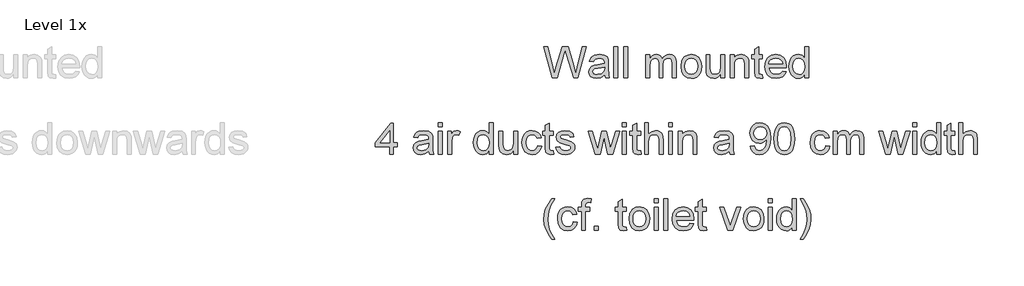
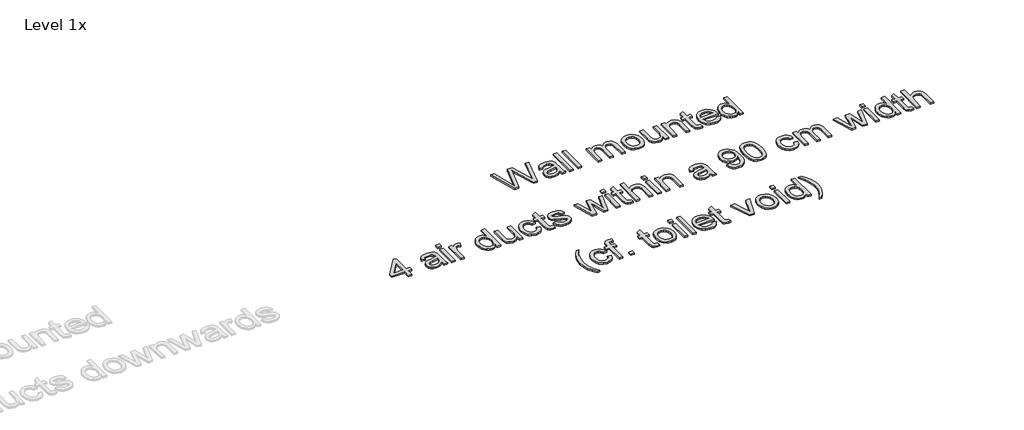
# One storey, part 4 of 7: 1 proxy.
"""IFC4 building model written with IfcOpenShell, lengths in millimetres."""

from ifc_helpers import new_model, si_unit, origin, origin_with_axes, place, context, project, spatial, polyline, outline, extrude, element, save

model = new_model("IFC4")

# Units and contexts
model_context = context("Model", 3, world=origin())
ifc_project = project(units=[si_unit("LENGTHUNIT", "METRE", prefix="MILLI")], contexts=[model_context])

# Site, building, storey
site = spatial("IfcSite", under=ifc_project)
building = spatial("IfcBuilding", under=site)
storey = spatial("IfcBuildingStorey", under=building, Name="Level 1x", Elevation=0.0)

# Proxy
placement = place(None, origin())
element("IfcBuildingElementProxy", 1, Name="190mm Arial", ObjectType="190mm Arial", at=placement, inside=storey, context=model_context, shape_type="SweptSolid", body=[
    extrude(outline(polyline([(-2830.0854469, 313.1270961), (-2882.1358442, 503.9940853), (-2857.5318963, 503.9940853), (-2827.3361422, 378.5512301), (-2818.016465, 339.8279713), (-2808.0444103, 374.077785), (-2770.2065209, 503.9940853), (-2734.7451491, 503.9940853), (-2707.2521013, 409.8187471), (-2686.7954098, 339.8279713), (-2677.7553229, 377.4328688), (-2647.2799785, 503.9940853), (-2622.6760306, 503.9940853), (-2674.7730262, 313.1270961), (-2700.2623434, 313.1270961), (-2746.0219585, 460.377996), (-2752.4059374, 480.9278842), (-2759.5820888, 456.1841412), (-2801.2876444, 313.1270961), (-2830.0854469, 313.1270961)])), origin_with_axes(), (0.0, 0.0, 1.0), 10.0),
    extrude(outline(polyline([(-2512.3310524, 331.0208763), (-2535.4671511, 314.8512363), (-2561.0263659, 310.1447993), (-2580.9646503, 312.9756513), (-2595.6722659, 321.4682072), (-2604.7414768, 334.3643105), (-2607.7645471, 350.4058049), (-2603.1979052, 369.2781512), (-2591.1988208, 382.9780767), (-2574.4932994, 390.8066056), (-2553.8502144, 394.3946813), (-2512.4708476, 402.5959973), (-2512.3310524, 407.9082133), (-2513.9736455, 418.5559445), (-2518.9014249, 425.5224032), (-2529.9219432, 430.6948241), (-2545.2761114, 432.4189644), (-2569.4140754, 427.8290233), (-2576.1824909, 421.4625188), (-2580.9238767, 411.5428874), (-2604.7822504, 414.5251841), (-2594.4607079, 437.8243771), (-2585.6652625, 445.6645556), (-2573.6778277, 451.4777043), (-2542.2006179, 456.277338), (-2513.2863193, 452.0368849), (-2496.953585, 441.3891537), (-2489.6376384, 425.1962145), (-2488.4726788, 404.3201376), (-2488.4726788, 374.6369656), (-2487.2611207, 333.1877012), (-2482.5080854, 313.1270961), (-2506.366459, 313.1270961), (-2512.3310524, 331.0208763)]), holes=[polyline([(-2512.3310524, 378.7376236), (-2550.8213193, 371.421677), (-2571.3479084, 367.554011), (-2580.6442864, 361.2632288), (-2583.9061734, 352.0833468), (-2582.1296099, 344.9887425), (-2576.7999195, 339.1755939), (-2568.0335982, 335.2962782), (-2555.9471418, 334.003173), (-2531.8091778, 339.7114753), (-2516.2453169, 353.5278968), (-2512.4708476, 371.9808576), (-2512.3310524, 378.7376236)])]), origin_with_axes(), (0.0, 0.0, 1.0), 10.0),
    extrude(outline(polyline([(-2455.667415, 313.1270961), (-2455.667415, 503.9940853), (-2431.8090413, 503.9940853), (-2431.8090413, 313.1270961), (-2455.667415, 313.1270961)])), origin_with_axes(), (0.0, 0.0, 1.0), 10.0),
    extrude(outline(polyline([(-2396.0214808, 313.1270961), (-2396.0214808, 503.9940853), (-2372.1631072, 503.9940853), (-2372.1631072, 313.1270961), (-2396.0214808, 313.1270961)])), origin_with_axes(), (0.0, 0.0, 1.0), 10.0),
    extrude(outline(polyline([(-2261.818129, 313.1270961), (-2261.818129, 453.2950413), (-2237.9597553, 453.2950413), (-2237.9597553, 430.2288402), (-2221.5571234, 449.1244858), (-2210.5948531, 454.489125), (-2198.211332, 456.277338), (-2184.9424416, 454.4541762), (-2174.30636, 448.9846906), (-2166.3613352, 440.2300188), (-2161.1656151, 428.5512983), (-2152.4691913, 440.6814407), (-2142.5495599, 449.3458281), (-2131.4067208, 454.5444605), (-2119.0406741, 456.277338), (-2101.1061203, 453.3940629), (-2087.8430547, 444.7442375), (-2079.6475635, 430.0948699), (-2076.9157331, 409.2129681), (-2076.9157331, 313.1270961), (-2100.7741068, 313.1270961), (-2100.7741068, 398.9613232), (-2102.9875301, 418.8821332), (-2111.0024525, 428.6910935), (-2124.6324805, 432.4189644), (-2137.5577078, 430.0307971), (-2148.0947678, 422.8662952), (-2155.1020001, 410.4361757), (-2157.4377442, 392.2511556), (-2157.4377442, 313.1270961), (-2181.2961179, 313.1270961), (-2181.2961179, 401.6174312), (-2182.6765951, 415.1076639), (-2186.8180266, 424.7302307), (-2194.1048493, 430.4967809), (-2204.9214996, 432.4189644), (-2222.5822879, 427.2931419), (-2229.5720458, 420.9790606), (-2234.3250812, 412.2884616), (-2237.9597553, 383.8168477), (-2237.9597553, 313.1270961), (-2261.818129, 313.1270961)])), origin_with_axes(), (0.0, 0.0, 1.0), 10.0),
    extrude(outline(polyline([(-2047.0927661, 383.2110687), (-2041.9319948, 417.0065482), (-2035.4810307, 430.1385558), (-2026.449681, 440.7600755), (-2007.3210436, 452.3980224), (-1984.4179368, 456.277338), (-1959.3538299, 451.5534266), (-1939.3339983, 437.3816925), (-1926.2107278, 414.8804968), (-1921.8363043, 385.1682009), (-1923.7701374, 361.0651857), (-1929.5716364, 342.7170712), (-1939.0718824, 328.9763721), (-1952.1019561, 318.6956032), (-1967.578445, 312.2825003), (-1984.4179368, 310.1447993), (-2009.7849332, 314.8512363), (-2029.7814656, 328.9705473), (-2042.764941, 351.9435516), (-2047.0927661, 383.2110687)]), holes=[polyline([(-2023.2343924, 383.2576671), (-2020.473438, 361.6651399), (-2012.1905749, 346.2818477), (-1999.7255066, 337.0728417), (-1984.4179368, 334.003173), (-1969.1802646, 337.0903161), (-1956.7384955, 346.3517453), (-1948.4556324, 361.9389054), (-1945.694678, 384.0032412), (-1948.4731068, 404.9666902), (-1956.8083931, 420.1402896), (-1969.2676365, 429.3492957), (-1984.4179368, 432.4189644), (-1999.7255066, 429.3609453), (-2012.1905749, 420.186888), (-2020.473438, 404.8385446), (-2023.2343924, 383.2576671)])]), origin_with_axes(), (0.0, 0.0, 1.0), 10.0),
    extrude(outline(polyline([(-1805.5267327, 313.1270961), (-1805.5267327, 337.2184616), (-1814.1590838, 325.3737344), (-1824.2126856, 316.9132149), (-1835.6875381, 311.8369032), (-1848.5836415, 310.1447993), (-1871.0207643, 314.8978347), (-1886.4914285, 326.8270216), (-1893.5976824, 344.3946131), (-1894.995634, 366.5754449), (-1894.995634, 453.2950413), (-1871.1372603, 453.2950413), (-1871.1372603, 377.8056559), (-1869.6927103, 353.4812984), (-1860.2565372, 339.1988931), (-1842.4792529, 334.003173), (-1822.5584428, 339.315389), (-1814.6192428, 345.5886967), (-1809.3943988, 353.7841879), (-1805.5267327, 380.3685671), (-1805.5267327, 453.2950413), (-1781.6683591, 453.2950413), (-1781.6683591, 313.1270961), (-1805.5267327, 313.1270961)])), origin_with_axes(), (0.0, 0.0, 1.0), 10.0),
    extrude(outline(polyline([(-1748.8630953, 313.1270961), (-1748.8630953, 453.2950413), (-1725.0047216, 453.2950413), (-1725.0047216, 433.7237192), (-1716.7160337, 443.5909274), (-1706.7614535, 450.6389333), (-1681.8546162, 456.277338), (-1659.3242965, 451.7339954), (-1643.9468291, 439.8048085), (-1636.7939768, 422.2605162), (-1635.5358204, 399.1943151), (-1635.5358204, 313.1270961), (-1659.3941941, 313.1270961), (-1659.3941941, 395.9790265), (-1662.1434988, 417.0880953), (-1671.8592623, 428.2484088), (-1688.238595, 432.4189644), (-1702.2122861, 430.0773955), (-1714.1239985, 423.0526888), (-1722.2845409, 409.4809088), (-1725.0047216, 387.4981202), (-1725.0047216, 313.1270961), (-1748.8630953, 313.1270961)])), origin_with_axes(), (0.0, 0.0, 1.0), 10.0),
    extrude(outline(polyline([(-1552.0315126, 333.0246069), (-1549.0492159, 312.4281203), (-1566.8963978, 310.1447993), (-1586.8871054, 314.1056622), (-1596.85916, 324.4971022), (-1599.7482599, 351.5707645), (-1599.7482599, 429.4366676), (-1617.6420402, 429.4366676), (-1617.6420402, 453.2950413), (-1599.7482599, 453.2950413), (-1599.7482599, 487.3584615), (-1575.8898863, 501.3845757), (-1575.8898863, 453.2950413), (-1552.0315126, 453.2950413), (-1552.0315126, 429.4366676), (-1575.8898863, 429.4366676), (-1575.8898863, 352.2697403), (-1574.6317298, 339.9677664), (-1570.5543711, 335.6108173), (-1562.4229527, 334.003173), (-1552.0315126, 333.0246069)])), origin_with_axes(), (0.0, 0.0, 1.0), 10.0),
    extrude(outline(polyline([(-1430.0369379, 354.87925), (-1406.6445481, 351.8969533), (-1415.0730312, 334.2711137), (-1428.5224904, 321.0954201), (-1446.6900361, 312.8824545), (-1469.272779, 310.1447993), (-1497.2667594, 314.8687107), (-1518.8068633, 329.0404449), (-1532.5417376, 351.7396837), (-1537.1200291, 382.046109), (-1532.4951392, 413.3718741), (-1518.6204698, 436.7992126), (-1497.3716058, 451.4078067), (-1470.6241322, 456.277338), (-1444.7096047, 451.4194563), (-1424.0024469, 436.845811), (-1410.4248422, 413.4650708), (-1405.8989739, 382.1859042), (-1406.0387691, 375.7553269), (-1513.2616554, 375.7553269), (-1509.1318734, 357.8964955), (-1499.5384307, 344.7674002), (-1485.6928853, 336.6942298), (-1468.8067951, 334.003173), (-1445.4144053, 338.9892003), (-1436.7238063, 345.4547264), (-1430.0369379, 354.87925)]), holes=[polyline([(-1513.2616554, 399.6137006), (-1429.7573476, 399.6137006), (-1432.9842858, 412.218564), (-1439.3100167, 421.2353517), (-1453.219635, 429.6230612), (-1470.7173289, 432.4189644), (-1486.7995969, 430.1880666), (-1500.0976113, 423.4953734), (-1509.3415662, 413.0631597), (-1513.2616554, 399.6137006)])]), origin_with_axes(), (0.0, 0.0, 1.0), 10.0),
    extrude(outline(polyline([(-1295.5539957, 313.1270961), (-1295.5539957, 335.6341165), (-1302.692286, 324.4825403), (-1311.339199, 316.5171286), (-1321.4947348, 311.7378817), (-1333.1588933, 310.1447993), (-1348.5829591, 312.4514195), (-1362.7022701, 319.3712798), (-1374.6547561, 330.4209221), (-1383.578347, 345.1168881), (-1389.1352045, 362.8650484), (-1390.9874904, 383.0712735), (-1389.2808245, 403.0270324), (-1384.1608268, 421.0489582), (-1375.6333222, 436.1118864), (-1363.7041354, 447.1906527), (-1349.2761101, 454.0056667), (-1333.2520901, 456.277338), (-1321.5791944, 454.6522193), (-1311.2576518, 449.7768632), (-1295.5539957, 432.8849482), (-1295.5539957, 503.9940853), (-1271.6956221, 503.9940853), (-1271.6956221, 313.1270961), (-1295.5539957, 313.1270961)]), holes=[polyline([(-1367.1291167, 383.1644703), (-1364.4380599, 361.5835928), (-1356.3648896, 346.2352493), (-1344.6337459, 337.0611921), (-1330.9687692, 334.003173), (-1317.3096172, 336.9213969), (-1305.8755383, 345.6760687), (-1298.1343814, 360.4302827), (-1295.5539957, 381.3471332), (-1298.1809798, 404.2152912), (-1306.0619318, 420.0703921), (-1317.7872507, 429.3318213), (-1331.9473353, 432.4189644), (-1345.7521071, 429.454142), (-1357.0638653, 420.5596751), (-1364.6128039, 405.2812293), (-1367.1291167, 383.1644703)])]), origin_with_axes(), (0.0, 0.0, 1.0), 10.0),
    extrude(outline(polyline([(-3820.0681587, -150.3772118), (-3820.0681587, -105.6427611), (-3906.5547632, -105.6427611), (-3906.5547632, -81.7843875), (-3814.1035653, 37.5074808), (-3796.209785, 37.5074808), (-3796.209785, -81.7843875), (-3772.3514114, -81.7843875), (-3772.3514114, -105.6427611), (-3796.209785, -105.6427611), (-3796.209785, -150.3772118), (-3820.0681587, -150.3772118)]), holes=[polyline([(-3820.0681587, -81.7843875), (-3820.0681587, -8.0657407), (-3877.19778, -81.7843875), (-3820.0681587, -81.7843875)])]), origin_with_axes(), (0.0, 0.0, 1.0), 10.0),
    extrude(outline(polyline([(-3581.4844221, -132.4834315), (-3604.6205208, -148.6530715), (-3630.1797355, -153.3595085), (-3650.11802, -150.5286565), (-3664.8256356, -142.0361007), (-3673.8948464, -129.1399973), (-3676.9179167, -113.0985029), (-3672.3512749, -94.2261566), (-3660.3521905, -80.5262311), (-3643.6466691, -72.6977022), (-3623.0035841, -69.1096265), (-3581.6242173, -60.9083105), (-3581.4844221, -55.5960945), (-3583.1270152, -44.9483633), (-3588.0547945, -37.9819046), (-3599.0753128, -32.8094837), (-3614.429481, -31.0853435), (-3638.567445, -35.6752845), (-3645.3358606, -42.041789), (-3650.0772464, -51.9614204), (-3673.93562, -48.9791237), (-3663.6140775, -25.6799307), (-3654.8186322, -17.8397522), (-3642.8311973, -12.0266036), (-3611.3539876, -7.2269698), (-3582.439689, -11.4674229), (-3566.1069547, -22.1151541), (-3558.7910081, -38.3080933), (-3557.6260484, -59.1841702), (-3557.6260484, -88.8673422), (-3556.4144904, -130.3166066), (-3551.661455, -150.3772118), (-3575.5198287, -150.3772118), (-3581.4844221, -132.4834315)]), holes=[polyline([(-3581.4844221, -84.7666842), (-3619.974689, -92.0826308), (-3640.501278, -95.9502968), (-3649.7976561, -102.241079), (-3653.0595431, -111.420961), (-3651.2829796, -118.5155653), (-3645.9532892, -124.328714), (-3637.1869678, -128.2080296), (-3625.1005114, -129.5011348), (-3600.9625475, -123.7928325), (-3585.3986865, -109.976411), (-3581.6242173, -91.5234502), (-3581.4844221, -84.7666842)])]), origin_with_axes(), (0.0, 0.0, 1.0), 10.0),
    extrude(outline(polyline([(-3524.8207847, 16.6314039), (-3524.8207847, 40.4897775), (-3500.962411, 40.4897775), (-3500.962411, 16.6314039), (-3524.8207847, 16.6314039)])), origin_with_axes(), (0.0, 0.0, 1.0), 10.0),
    extrude(outline(polyline([(-3524.8207847, -150.3772118), (-3524.8207847, -10.2092665), (-3500.962411, -10.2092665), (-3500.962411, -150.3772118), (-3524.8207847, -150.3772118)])), origin_with_axes(), (0.0, 0.0, 1.0), 10.0),
    extrude(outline(polyline([(-3465.1748505, -150.3772118), (-3465.1748505, -10.2092665), (-3444.2987736, -10.2092665), (-3444.2987736, -30.9455483), (-3429.4804868, -11.84021), (-3414.5690032, -7.2269698), (-3402.6864148, -9.067606), (-3390.6174328, -14.5895148), (-3398.5857568, -35.978174), (-3415.3611758, -31.0853435), (-3428.8514086, -35.7917804), (-3437.4488108, -48.8393285), (-3441.3164768, -76.7051634), (-3441.3164768, -150.3772118), (-3465.1748505, -150.3772118)])), origin_with_axes(), (0.0, 0.0, 1.0), 10.0),
    extrude(outline(polyline([(-3214.6619271, -150.3772118), (-3214.6619271, -127.8701913), (-3221.8002173, -139.0217676), (-3230.4471303, -146.9871792), (-3240.6026661, -151.7664261), (-3252.2668246, -153.3595085), (-3267.6908904, -151.0528884), (-3281.8102014, -144.133028), (-3293.7626874, -133.0833857), (-3302.6862783, -118.3874197), (-3308.2431359, -100.6392594), (-3310.0954217, -80.4330343), (-3308.3887558, -60.4772755), (-3303.2687582, -42.4553497), (-3294.7412535, -27.3924214), (-3282.8120667, -16.3136551), (-3268.3840414, -9.4986411), (-3252.3600214, -7.2269698), (-3240.6871257, -8.8520885), (-3230.3655832, -13.7274447), (-3214.6619271, -30.6193596), (-3214.6619271, 40.4897775), (-3190.8035534, 40.4897775), (-3190.8035534, -150.3772118), (-3214.6619271, -150.3772118)]), holes=[polyline([(-3286.237048, -80.3398375), (-3283.5459913, -101.9207151), (-3275.4728209, -117.2690585), (-3263.7416772, -126.4431157), (-3250.0767005, -129.5011348), (-3236.4175486, -126.5829109), (-3224.9834696, -117.8282391), (-3217.2423127, -103.0740251), (-3214.6619271, -82.1571746), (-3217.2889111, -59.2890166), (-3225.1698631, -43.4339158), (-3236.895182, -34.1724865), (-3251.0552666, -31.0853435), (-3264.8600384, -34.0501658), (-3276.1717967, -42.9446327), (-3283.7207352, -58.2230785), (-3286.237048, -80.3398375)])]), origin_with_axes(), (0.0, 0.0, 1.0), 10.0),
    extrude(outline(polyline([(-3065.5470917, -150.3772118), (-3065.5470917, -126.2858462), (-3074.1794427, -138.1305734), (-3084.2330445, -146.5910929), (-3095.7078971, -151.6674046), (-3108.6040004, -153.3595085), (-3131.0411233, -148.6064731), (-3146.5117875, -136.6772863), (-3153.6180413, -119.1096947), (-3155.0159929, -96.928863), (-3155.0159929, -10.2092665), (-3131.1576193, -10.2092665), (-3131.1576193, -85.6986519), (-3129.7130693, -110.0230094), (-3120.2768961, -124.3054148), (-3102.4996118, -129.5011348), (-3082.5788018, -124.1889188), (-3074.6396018, -117.9156111), (-3069.4147577, -109.7201199), (-3065.5470917, -83.1357407), (-3065.5470917, -10.2092665), (-3041.688718, -10.2092665), (-3041.688718, -150.3772118), (-3065.5470917, -150.3772118)])), origin_with_axes(), (0.0, 0.0, 1.0), 10.0),
    extrude(outline(polyline([(-2919.414553, -99.6781677), (-2895.5561794, -102.6604644), (-2902.208099, -123.8802045), (-2914.708116, -139.9158741), (-2931.8796213, -149.9985999), (-2952.5460055, -153.3595085), (-2977.9246515, -148.6705459), (-2997.7697392, -134.6036581), (-3010.5784705, -111.7762737), (-3014.8480477, -80.8058214), (-3013.0248858, -59.5744317), (-3007.5554002, -41.173894), (-2998.352219, -26.3148337), (-2985.3279701, -15.7078761), (-2969.7466348, -9.3471964), (-2952.8721942, -7.2269698), (-2932.7125674, -10.1393689), (-2916.5953507, -18.8765663), (-2905.0331261, -32.9725781), (-2898.5384761, -51.9614204), (-2922.3968497, -54.9437171), (-2926.7246748, -44.5348026), (-2933.4639664, -37.0732361), (-2942.2419374, -32.5823166), (-2952.6858007, -31.0853435), (-2968.1040416, -34.0326914), (-2980.3419428, -42.8747351), (-2988.3277412, -58.0891082), (-2990.989674, -80.153444), (-2988.3859892, -102.5148445), (-2980.5749347, -117.7816407), (-2968.5583759, -126.5712613), (-2953.3381781, -129.5011348), (-2940.983781, -127.6721482), (-2930.8544568, -122.1851882), (-2923.486087, -112.9004598), (-2919.414553, -99.6781677)])), origin_with_axes(), (0.0, 0.0, 1.0), 10.0),
    extrude(outline(polyline([(-2823.9810584, -130.4797009), (-2820.9987617, -151.0761876), (-2838.8459435, -153.3595085), (-2858.8366511, -149.3986457), (-2868.8087058, -139.0072056), (-2871.6978057, -111.9335433), (-2871.6978057, -34.0676402), (-2889.5915859, -34.0676402), (-2889.5915859, -10.2092665), (-2871.6978057, -10.2092665), (-2871.6978057, 23.8541537), (-2847.839432, 37.8802679), (-2847.839432, -10.2092665), (-2823.9810584, -10.2092665), (-2823.9810584, -34.0676402), (-2847.839432, -34.0676402), (-2847.839432, -111.2345675), (-2846.5812756, -123.5365414), (-2842.5039168, -127.8934905), (-2834.3724985, -129.5011348), (-2823.9810584, -130.4797009)])), origin_with_axes(), (0.0, 0.0, 1.0), 10.0),
    extrude(outline(polyline([(-2809.0695748, -108.6250579), (-2785.2112012, -105.6427611), (-2781.4483815, -115.8478077), (-2774.1673837, -123.3501478), (-2763.3216093, -127.9633881), (-2748.8644601, -129.5011348), (-2734.5820547, -128.0915336), (-2724.5401025, -123.8627301), (-2718.5988083, -117.7350423), (-2716.6183769, -110.6287885), (-2718.6104579, -104.5476991), (-2724.5867009, -99.9111597), (-2749.1440504, -93.1077953), (-2785.071406, -81.4348996), (-2800.7517629, -67.8048717), (-2806.0872781, -48.5597382), (-2801.8002266, -30.7824539), (-2790.1040317, -17.1990244), (-2774.9362571, -10.1393689), (-2754.409668, -7.2269698), (-2725.3788735, -11.9101076), (-2714.5214495, -17.4203667), (-2706.9259126, -24.5848686), (-2698.7245967, -45.996827), (-2722.5829703, -48.9791237), (-2725.594391, -41.4709587), (-2731.5531596, -35.8150796), (-2752.5457326, -31.0853435), (-2775.3789417, -35.6053869), (-2780.5164138, -40.4982174), (-2782.2289045, -46.1366222), (-2779.3864029, -53.0797817), (-2770.4861112, -58.3453993), (-2749.9362229, -63.4246234), (-2714.9175358, -74.6548344), (-2698.6546991, -87.3761938), (-2694.2336772, -96.7308198), (-2692.7600032, -108.1124756), (-2694.4899683, -119.8785681), (-2699.6798636, -130.9456848), (-2708.1316458, -140.4459307), (-2719.647272, -147.511411), (-2733.5568902, -151.8974841), (-2749.1906488, -153.3595085), (-2773.2470656, -150.5403061), (-2790.8030075, -142.082699), (-2802.5225016, -128.079884), (-2809.0695748, -108.6250579)])), origin_with_axes(), (0.0, 0.0, 1.0), 10.0),
    extrude(outline(polyline([(-2568.1093205, -150.3772118), (-2610.7468438, -10.2092665), (-2585.9565024, -10.2092665), (-2561.77194, -91.989434), (-2554.5491902, -121.2066221), (-2548.6311952, -93.0611969), (-2529.3860617, -10.2092665), (-2500.9610462, -10.2092665), (-2481.8091096, -92.828205), (-2476.5434919, -118.3175222), (-2468.9945534, -91.4302534), (-2444.7633927, -10.2092665), (-2419.8798545, -10.2092665), (-2462.8435664, -150.3772118), (-2491.6879674, -150.3772118), (-2510.0011331, -68.1776588), (-2515.3133491, -42.5485464), (-2538.9387309, -150.3772118), (-2568.1093205, -150.3772118)])), origin_with_axes(), (0.0, 0.0, 1.0), 10.0),
    extrude(outline(polyline([(-2403.4772226, 16.6314039), (-2403.4772226, 40.4897775), (-2379.6188489, 40.4897775), (-2379.6188489, 16.6314039), (-2403.4772226, 16.6314039)])), origin_with_axes(), (0.0, 0.0, 1.0), 10.0),
    extrude(outline(polyline([(-2403.4772226, -150.3772118), (-2403.4772226, -10.2092665), (-2379.6188489, -10.2092665), (-2379.6188489, -150.3772118), (-2403.4772226, -150.3772118)])), origin_with_axes(), (0.0, 0.0, 1.0), 10.0),
    extrude(outline(polyline([(-2293.1322444, -130.4797009), (-2290.1499477, -151.0761876), (-2307.9971296, -153.3595085), (-2327.9878372, -149.3986457), (-2337.9598918, -139.0072056), (-2340.8489918, -111.9335433), (-2340.8489918, -34.0676402), (-2358.742772, -34.0676402), (-2358.742772, -10.2092665), (-2340.8489918, -10.2092665), (-2340.8489918, 23.8541537), (-2316.9906181, 37.8802679), (-2316.9906181, -10.2092665), (-2293.1322444, -10.2092665), (-2293.1322444, -34.0676402), (-2316.9906181, -34.0676402), (-2316.9906181, -111.2345675), (-2315.7324617, -123.5365414), (-2311.6551029, -127.8934905), (-2303.5236845, -129.5011348), (-2293.1322444, -130.4797009)])), origin_with_axes(), (0.0, 0.0, 1.0), 10.0),
    extrude(outline(polyline([(-2269.2738708, -150.3772118), (-2269.2738708, 40.4897775), (-2245.4154971, 40.4897775), (-2245.4154971, -29.6873919), (-2226.8110915, -12.8420753), (-2203.8963351, -7.2269698), (-2189.4857842, -8.7588917), (-2177.1022632, -13.3546576), (-2167.3515509, -20.6531298), (-2160.8394264, -30.2931709), (-2155.9465959, -61.6538847), (-2155.9465959, -150.3772118), (-2179.8049695, -150.3772118), (-2179.8049695, -64.1235992), (-2181.7038538, -49.1888164), (-2187.4005065, -38.9604707), (-2196.5803885, -33.0541253), (-2208.9289608, -31.0853435), (-2228.4769838, -36.3975595), (-2236.3171622, -42.6533928), (-2241.5245319, -50.7964608), (-2245.4154971, -75.9129908), (-2245.4154971, -150.3772118), (-2269.2738708, -150.3772118)])), origin_with_axes(), (0.0, 0.0, 1.0), 10.0),
    extrude(outline(polyline([(-2123.1413321, -150.3772118), (-2123.1413321, -10.2092665), (-2099.2829584, -10.2092665), (-2099.2829584, -150.3772118), (-2123.1413321, -150.3772118)])), origin_with_axes(), (0.0, 0.0, 1.0), 10.0),
    extrude(outline(polyline([(-2123.1413321, 16.6314039), (-2123.1413321, 40.4897775), (-2099.2829584, 40.4897775), (-2099.2829584, 16.6314039), (-2123.1413321, 16.6314039)])), origin_with_axes(), (0.0, 0.0, 1.0), 10.0),
    extrude(outline(polyline([(-2063.4953979, -150.3772118), (-2063.4953979, -10.2092665), (-2039.6370243, -10.2092665), (-2039.6370243, -29.7805886), (-2031.3483364, -19.9133804), (-2021.3937561, -12.8653745), (-1996.4869188, -7.2269698), (-1973.9565991, -11.7703124), (-1958.5791317, -23.6994993), (-1951.4262795, -41.2437916), (-1950.1681231, -64.3099927), (-1950.1681231, -150.3772118), (-1974.0264967, -150.3772118), (-1974.0264967, -67.5252814), (-1976.7758015, -46.4162125), (-1986.491565, -35.255899), (-2002.8708977, -31.0853435), (-2016.8445887, -33.4269124), (-2028.7563011, -40.4516191), (-2036.9168435, -54.023399), (-2039.6370243, -76.0061876), (-2039.6370243, -150.3772118), (-2063.4953979, -150.3772118)])), origin_with_axes(), (0.0, 0.0, 1.0), 10.0),
    extrude(outline(polyline([(-1753.3365404, -132.4834315), (-1776.472639, -148.6530715), (-1802.0318538, -153.3595085), (-1821.9701382, -150.5286565), (-1836.6777538, -142.0361007), (-1845.7469647, -129.1399973), (-1848.770035, -113.0985029), (-1844.2033932, -94.2261566), (-1832.2043088, -80.5262311), (-1815.4987874, -72.6977022), (-1794.8557023, -69.1096265), (-1753.4763355, -60.9083105), (-1753.3365404, -55.5960945), (-1754.9791335, -44.9483633), (-1759.9069128, -37.9819046), (-1770.9274311, -32.8094837), (-1786.2815993, -31.0853435), (-1810.4195633, -35.6752845), (-1817.1879789, -42.041789), (-1821.9293646, -51.9614204), (-1845.7877383, -48.9791237), (-1835.4661958, -25.6799307), (-1826.6707504, -17.8397522), (-1814.6833156, -12.0266036), (-1783.2061058, -7.2269698), (-1754.2918073, -11.4674229), (-1737.959073, -22.1151541), (-1730.6431264, -38.3080933), (-1729.4781667, -59.1841702), (-1729.4781667, -88.8673422), (-1728.2666087, -130.3166066), (-1723.5135733, -150.3772118), (-1747.3719469, -150.3772118), (-1753.3365404, -132.4834315)]), holes=[polyline([(-1753.3365404, -84.7666842), (-1791.8268072, -92.0826308), (-1812.3533963, -95.9502968), (-1821.6497743, -102.241079), (-1824.9116613, -111.420961), (-1823.1350979, -118.5155653), (-1817.8054075, -124.328714), (-1809.0390861, -128.2080296), (-1796.9526297, -129.5011348), (-1772.8146657, -123.7928325), (-1757.2508048, -109.976411), (-1753.4763355, -91.5234502), (-1753.3365404, -84.7666842)])]), origin_with_axes(), (0.0, 0.0, 1.0), 10.0),
    extrude(outline(polyline([(-1625.0977819, -102.6604644), (-1601.2394083, -99.6781677), (-1597.1620495, -113.2208237), (-1590.5217795, -122.4414793), (-1581.4816926, -127.7362209), (-1570.2048832, -129.5011348), (-1550.8898521, -124.9577922), (-1537.7957057, -112.8189126), (-1529.990476, -92.0826308), (-1526.5421954, -64.4031895), (-1526.6819906, -59.7433509), (-1534.9473793, -69.8319015), (-1545.7640297, -77.8235247), (-1558.3514187, -83.0308943), (-1571.9290234, -84.7666842), (-1593.6846449, -80.5262311), (-1611.7939427, -67.8048717), (-1624.0085447, -48.1520023), (-1628.0800786, -23.1170194), (-1623.8105015, 2.7450848), (-1611.0017702, 23.0153828), (-1591.7624615, 36.1211788), (-1568.2011526, 40.4897775), (-1550.4063939, 37.9967639), (-1534.2076299, 30.5177229), (-1520.6591492, 18.4254417), (-1510.8152401, 2.0927074), (-1504.8215227, -20.4842106), (-1502.8236169, -51.309043), (-1504.8156979, -83.991986), (-1510.7919409, -109.2541361), (-1520.6999228, -128.2371536), (-1534.4872202, -142.082699), (-1551.5597039, -150.5403061), (-1571.3232444, -153.3595085), (-1591.7216879, -150.0335487), (-1607.9961743, -140.0556692), (-1619.37783, -124.0549484), (-1625.0977819, -102.6604644)]), holes=[polyline([(-1526.6819906, -22.5578388), (-1529.2565514, -6.3881988), (-1536.9802339, 6.0535702), (-1548.9676687, 13.9869455), (-1564.3334865, 16.6314039), (-1580.2701345, 13.7830775), (-1593.0380923, 5.2380985), (-1601.4258018, -7.8385736), (-1604.221705, -24.2819791), (-1601.5772466, -39.0245435), (-1593.6438713, -50.7265632), (-1581.1904527, -58.3628737), (-1564.9858639, -60.9083105), (-1549.7423669, -58.3628737), (-1537.469517, -50.7265632), (-1529.3788722, -38.5935084), (-1526.6819906, -22.5578388)])]), origin_with_axes(), (0.0, 0.0, 1.0), 10.0),
    extrude(outline(polyline([(-1481.94754, -56.4814639), (-1480.1942757, -25.930397), (-1474.9344829, -1.5652659), (-1466.2205847, 16.9867166), (-1454.1050043, 30.0983374), (-1438.5003698, 37.8919175), (-1419.3193091, 40.4897775), (-1404.6175183, 38.9520308), (-1391.4534743, 34.3387906), (-1380.4446055, 26.8306256), (-1372.2083408, 16.6081047), (-1361.0247282, -11.6305173), (-1356.6910783, -56.4814639), (-1358.4268681, -86.8577868), (-1363.6342378, -111.1646699), (-1372.2957128, -129.7341267), (-1384.3938188, -142.8981708), (-1400.0334021, -150.744174), (-1419.3193091, -153.3595085), (-1444.1096505, -148.8161658), (-1462.9353985, -135.1861379), (-1471.2532104, -120.8134482), (-1477.1945046, -102.905106), (-1481.94754, -56.4814639)]), holes=[polyline([(-1458.0891663, -56.4348655), (-1455.2932631, -93.9640406), (-1446.9055537, -115.6847133), (-1434.4171862, -126.0470294), (-1419.3193091, -129.5011348), (-1404.221432, -126.0353798), (-1391.7330646, -115.638115), (-1383.3453551, -93.9057927), (-1380.5494519, -56.4348655), (-1383.2521583, -19.750286), (-1391.3602775, 2.1393058), (-1403.8253457, 13.0083793), (-1419.5988994, 16.6314039), (-1434.5336822, 13.4394144), (-1446.5327666, 3.8634461), (-1455.2000664, -19.3891486), (-1458.0891663, -56.4348655)])]), origin_with_axes(), (0.0, 0.0, 1.0), 10.0),
    extrude(outline(polyline([(-1165.824089, -99.6781677), (-1141.9657153, -102.6604644), (-1148.6176349, -123.8802045), (-1161.117652, -139.9158741), (-1178.2891572, -149.9985999), (-1198.9555415, -153.3595085), (-1224.3341875, -148.6705459), (-1244.1792751, -134.6036581), (-1256.9880065, -111.7762737), (-1261.2575836, -80.8058214), (-1259.4344218, -59.5744317), (-1253.9649362, -41.173894), (-1244.7617549, -26.3148337), (-1231.737506, -15.7078761), (-1216.1561707, -9.3471964), (-1199.2817302, -7.2269698), (-1179.1221034, -10.1393689), (-1163.0048866, -18.8765663), (-1151.4426621, -32.9725781), (-1144.948012, -51.9614204), (-1168.8063857, -54.9437171), (-1173.1342108, -44.5348026), (-1179.8735024, -37.0732361), (-1188.6514733, -32.5823166), (-1199.0953366, -31.0853435), (-1214.5135776, -34.0326914), (-1226.7514787, -42.8747351), (-1234.7372771, -58.0891082), (-1237.39921, -80.153444), (-1234.7955251, -102.5148445), (-1226.9844707, -117.7816407), (-1214.9679119, -126.5712613), (-1199.747714, -129.5011348), (-1187.3933169, -127.6721482), (-1177.2639927, -122.1851882), (-1169.895623, -112.9004598), (-1165.824089, -99.6781677)])), origin_with_axes(), (0.0, 0.0, 1.0), 10.0),
    extrude(outline(polyline([(-1121.0896384, -150.3772118), (-1121.0896384, -10.2092665), (-1097.2312647, -10.2092665), (-1097.2312647, -33.2754676), (-1080.8286328, -14.3798221), (-1069.8663625, -9.0151829), (-1057.4828414, -7.2269698), (-1044.213951, -9.0501317), (-1033.5778693, -14.5196172), (-1025.6328445, -23.274289), (-1020.4371245, -34.9530095), (-1011.7407007, -22.8228671), (-1001.8210692, -14.1584797), (-990.6782302, -8.9598473), (-978.3121835, -7.2269698), (-960.3776296, -10.1102449), (-947.114564, -18.7600703), (-938.9190729, -33.409438), (-936.1872425, -54.2913397), (-936.1872425, -150.3772118), (-960.0456161, -150.3772118), (-960.0456161, -64.5429846), (-962.2590395, -44.6221746), (-970.2739619, -34.8132143), (-983.9039898, -31.0853435), (-996.8292171, -33.4735107), (-1007.3662772, -40.6380126), (-1014.3735095, -53.0681321), (-1016.7092536, -71.2531522), (-1016.7092536, -150.3772118), (-1040.5676273, -150.3772118), (-1040.5676273, -61.8868766), (-1041.9481044, -48.3966439), (-1046.089536, -38.7740772), (-1053.3763586, -33.0075269), (-1064.193009, -31.0853435), (-1081.8537973, -36.2111659), (-1088.8435552, -42.5252472), (-1093.5965906, -51.2158462), (-1097.2312647, -79.6874601), (-1097.2312647, -150.3772118), (-1121.0896384, -150.3772118)])), origin_with_axes(), (0.0, 0.0, 1.0), 10.0),
    extrude(outline(polyline([(-802.5896697, -150.3772118), (-845.2271929, -10.2092665), (-820.4368515, -10.2092665), (-796.2522892, -91.989434), (-789.0295393, -121.2066221), (-783.1115443, -93.0611969), (-763.8664109, -10.2092665), (-735.4413954, -10.2092665), (-716.2894587, -92.828205), (-711.0238411, -118.3175222), (-703.4749025, -91.4302534), (-679.2437418, -10.2092665), (-654.3602036, -10.2092665), (-697.3239156, -150.3772118), (-726.1683165, -150.3772118), (-744.4814823, -68.1776588), (-749.7936983, -42.5485464), (-773.41908, -150.3772118), (-802.5896697, -150.3772118)])), origin_with_axes(), (0.0, 0.0, 1.0), 10.0),
    extrude(outline(polyline([(-637.9575717, 16.6314039), (-637.9575717, 40.4897775), (-614.0991981, 40.4897775), (-614.0991981, 16.6314039), (-637.9575717, 16.6314039)])), origin_with_axes(), (0.0, 0.0, 1.0), 10.0),
    extrude(outline(polyline([(-637.9575717, -150.3772118), (-637.9575717, -10.2092665), (-614.0991981, -10.2092665), (-614.0991981, -150.3772118), (-637.9575717, -150.3772118)])), origin_with_axes(), (0.0, 0.0, 1.0), 10.0),
    extrude(outline(polyline([(-491.8250331, -150.3772118), (-491.8250331, -127.8701913), (-498.9633233, -139.0217676), (-507.6102363, -146.9871792), (-517.7657721, -151.7664261), (-529.4299306, -153.3595085), (-544.8539964, -151.0528884), (-558.9733074, -144.133028), (-570.9257934, -133.0833857), (-579.8493843, -118.3874197), (-585.4062419, -100.6392594), (-587.2585277, -80.4330343), (-585.5518618, -60.4772755), (-580.4318641, -42.4553497), (-571.9043595, -27.3924214), (-559.9751727, -16.3136551), (-545.5471474, -9.4986411), (-529.5231274, -7.2269698), (-517.8502317, -8.8520885), (-507.5286892, -13.7274447), (-491.8250331, -30.6193596), (-491.8250331, 40.4897775), (-467.9666594, 40.4897775), (-467.9666594, -150.3772118), (-491.8250331, -150.3772118)]), holes=[polyline([(-563.400154, -80.3398375), (-560.7090972, -101.9207151), (-552.6359269, -117.2690585), (-540.9047832, -126.4431157), (-527.2398065, -129.5011348), (-513.5806545, -126.5829109), (-502.1465756, -117.8282391), (-494.4054187, -103.0740251), (-491.8250331, -82.1571746), (-494.4520171, -59.2890166), (-502.3329691, -43.4339158), (-514.058288, -34.1724865), (-528.2183726, -31.0853435), (-542.0231444, -34.0501658), (-553.3349027, -42.9446327), (-560.8838412, -58.2230785), (-563.400154, -80.3398375)])]), origin_with_axes(), (0.0, 0.0, 1.0), 10.0),
    extrude(outline(polyline([(-381.4800549, -130.4797009), (-378.4977582, -151.0761876), (-396.34494, -153.3595085), (-416.3356476, -149.3986457), (-426.3077023, -139.0072056), (-429.1968022, -111.9335433), (-429.1968022, -34.0676402), (-447.0905824, -34.0676402), (-447.0905824, -10.2092665), (-429.1968022, -10.2092665), (-429.1968022, 23.8541537), (-405.3384285, 37.8802679), (-405.3384285, -10.2092665), (-381.4800549, -10.2092665), (-381.4800549, -34.0676402), (-405.3384285, -34.0676402), (-405.3384285, -111.2345675), (-404.0802721, -123.5365414), (-400.0029133, -127.8934905), (-391.871495, -129.5011348), (-381.4800549, -130.4797009)])), origin_with_axes(), (0.0, 0.0, 1.0), 10.0),
    extrude(outline(polyline([(-357.6216812, -150.3772118), (-357.6216812, 40.4897775), (-333.7633076, 40.4897775), (-333.7633076, -29.6873919), (-315.1589019, -12.8420753), (-292.2441456, -7.2269698), (-277.8335947, -8.7588917), (-265.4500736, -13.3546576), (-255.6993613, -20.6531298), (-249.1872369, -30.2931709), (-244.2944063, -61.6538847), (-244.2944063, -150.3772118), (-268.15278, -150.3772118), (-268.15278, -64.1235992), (-270.0516642, -49.1888164), (-275.7483169, -38.9604707), (-284.928199, -33.0541253), (-297.2767713, -31.0853435), (-316.8247942, -36.3975595), (-324.6649727, -42.6533928), (-329.8723423, -50.7964608), (-333.7633076, -75.9129908), (-333.7633076, -150.3772118), (-357.6216812, -150.3772118)])), origin_with_axes(), (0.0, 0.0, 1.0), 10.0),
    extrude(outline(polyline([(-2834.4190969, -667.5628603), (-2852.9070065, -641.6192089), (-2868.2961235, -611.5981987), (-2878.675914, -578.9560292), (-2882.1358442, -545.1489001), (-2879.5496337, -515.500677), (-2871.7910025, -487.1339095), (-2856.3902359, -455.0043223), (-2834.4190969, -423.0145303), (-2816.5253166, -423.0145303), (-2838.8459435, -460.8058214), (-2852.2662787, -497.4321528), (-2858.2774705, -545.2886953), (-2855.6679609, -575.8747109), (-2847.839432, -606.449077), (-2834.7918839, -637.0117934), (-2816.5253166, -667.5628603), (-2834.4190969, -667.5628603)])), origin_with_axes(), (0.0, 0.0, 1.0), 10.0),
    extrude(outline(polyline([(-2703.1980417, -563.1824755), (-2679.3396681, -566.1647723), (-2685.9915877, -587.3845123), (-2698.4916047, -603.4201819), (-2715.66311, -613.5029077), (-2736.3294942, -616.8638163), (-2761.7081402, -612.1748537), (-2781.5532279, -598.1079659), (-2794.3619592, -575.2805815), (-2798.6315364, -544.3101292), (-2796.8083745, -523.0787395), (-2791.3388889, -504.6782018), (-2782.1357077, -489.8191415), (-2769.1114588, -479.2121839), (-2753.5301235, -472.8515042), (-2736.6556829, -470.7312776), (-2716.4960561, -473.6436767), (-2700.3788394, -482.3808741), (-2688.8166148, -496.4768859), (-2682.3219648, -515.4657282), (-2706.1803384, -518.4480249), (-2710.5081635, -508.0391104), (-2717.2474551, -500.5775439), (-2726.0254261, -496.0866244), (-2736.4692894, -494.5896513), (-2751.8875303, -497.5369992), (-2764.1254315, -506.3790429), (-2772.1112299, -521.593416), (-2774.7731627, -543.6577518), (-2772.1694779, -566.0191523), (-2764.3584234, -581.2859485), (-2752.3418646, -590.0755691), (-2737.1216668, -593.0054426), (-2724.7672697, -591.176456), (-2714.6379455, -585.689496), (-2707.2695757, -576.4047676), (-2703.1980417, -563.1824755)])), origin_with_axes(), (0.0, 0.0, 1.0), 10.0),
    extrude(outline(polyline([(-2652.4989977, -613.8815196), (-2652.4989977, -497.571948), (-2673.3750746, -497.571948), (-2673.3750746, -473.7135743), (-2652.4989977, -473.7135743), (-2652.4989977, -459.5942633), (-2649.9826848, -439.6967525), (-2637.7739077, -425.4842447), (-2627.4057668, -421.3952364), (-2613.7291405, -420.0322336), (-2591.9676942, -422.6417432), (-2595.4625732, -445.0089685), (-2609.209097, -443.8906072), (-2624.2370765, -447.8514701), (-2628.640624, -462.6231584), (-2628.640624, -473.7135743), (-2601.7999537, -473.7135743), (-2601.7999537, -497.571948), (-2628.640624, -497.571948), (-2628.640624, -613.8815196), (-2652.4989977, -613.8815196)])), origin_with_axes(), (0.0, 0.0, 1.0), 10.0),
    extrude(outline(polyline([(-2574.9592833, -613.8815196), (-2574.9592833, -590.0231459), (-2551.1009096, -590.0231459), (-2551.1009096, -613.8815196), (-2574.9592833, -613.8815196)])), origin_with_axes(), (0.0, 0.0, 1.0), 10.0),
    extrude(outline(polyline([(-2381.1099973, -593.9840087), (-2378.1277006, -614.5804954), (-2395.9748825, -616.8638163), (-2415.9655901, -612.9029535), (-2425.9376447, -602.5115134), (-2428.8267446, -575.4378511), (-2428.8267446, -497.571948), (-2446.7205249, -497.571948), (-2446.7205249, -473.7135743), (-2428.8267446, -473.7135743), (-2428.8267446, -439.6501541), (-2404.968371, -425.6240399), (-2404.968371, -473.7135743), (-2381.1099973, -473.7135743), (-2381.1099973, -497.571948), (-2404.968371, -497.571948), (-2404.968371, -574.7388753), (-2403.7102145, -587.0408492), (-2399.6328558, -591.3977983), (-2391.5014374, -593.0054426), (-2381.1099973, -593.9840087)])), origin_with_axes(), (0.0, 0.0, 1.0), 10.0),
    extrude(outline(polyline([(-2363.2162171, -543.7975469), (-2358.0554458, -510.0020675), (-2351.6044817, -496.8700598), (-2342.573132, -486.2485402), (-2323.4444946, -474.6105932), (-2300.5413878, -470.7312776), (-2275.4772809, -475.455189), (-2255.4574493, -489.6269232), (-2242.3341788, -512.1281188), (-2237.9597553, -541.8404147), (-2239.8935884, -565.9434299), (-2245.6950874, -584.2915444), (-2255.1953334, -598.0322435), (-2268.2254071, -608.3130124), (-2283.7018961, -614.7261153), (-2300.5413878, -616.8638163), (-2325.9083842, -612.1573793), (-2345.9049166, -598.0380683), (-2358.888392, -575.065064), (-2363.2162171, -543.7975469)]), holes=[polyline([(-2339.3578434, -543.7509486), (-2336.596889, -565.3434757), (-2328.3140259, -580.7267679), (-2315.8489576, -589.9357739), (-2300.5413878, -593.0054426), (-2285.3037156, -589.9182995), (-2272.8619465, -580.6568703), (-2264.5790834, -565.0697102), (-2261.818129, -543.0053744), (-2264.5965578, -522.0419255), (-2272.9318441, -506.868326), (-2285.3910875, -497.65932), (-2300.5413878, -494.5896513), (-2315.8489576, -497.6476704), (-2328.3140259, -506.8217276), (-2336.596889, -522.170071), (-2339.3578434, -543.7509486)])]), origin_with_axes(), (0.0, 0.0, 1.0), 10.0),
    extrude(outline(polyline([(-2211.119085, -446.8729039), (-2211.119085, -423.0145303), (-2187.2607113, -423.0145303), (-2187.2607113, -446.8729039), (-2211.119085, -446.8729039)])), origin_with_axes(), (0.0, 0.0, 1.0), 10.0),
    extrude(outline(polyline([(-2211.119085, -613.8815196), (-2211.119085, -473.7135743), (-2187.2607113, -473.7135743), (-2187.2607113, -613.8815196), (-2211.119085, -613.8815196)])), origin_with_axes(), (0.0, 0.0, 1.0), 10.0),
    extrude(outline(polyline([(-2151.4731508, -613.8815196), (-2151.4731508, -423.0145303), (-2127.6147772, -423.0145303), (-2127.6147772, -613.8815196), (-2151.4731508, -613.8815196)])), origin_with_axes(), (0.0, 0.0, 1.0), 10.0),
    extrude(outline(polyline([(-1993.6910156, -572.1293657), (-1970.2986258, -575.1116624), (-1978.7271089, -592.7375019), (-1992.1765681, -605.9131956), (-2010.3441139, -614.1261611), (-2032.9268567, -616.8638163), (-2060.9208371, -612.1399049), (-2082.4609411, -597.9681707), (-2096.1958154, -575.2689319), (-2100.7741068, -544.9625066), (-2096.149217, -513.6367416), (-2082.2745475, -490.209403), (-2061.0256835, -475.600809), (-2034.2782099, -470.7312776), (-2008.3636824, -475.5891594), (-1987.6565246, -490.1628046), (-1974.0789199, -513.5435448), (-1969.5530517, -544.8227114), (-1969.6928468, -551.2532887), (-2076.9157331, -551.2532887), (-2072.7859512, -569.1121202), (-2063.1925084, -582.2412154), (-2049.346963, -590.3143858), (-2032.4608728, -593.0054426), (-2009.068483, -588.0194153), (-2000.377884, -581.5538892), (-1993.6910156, -572.1293657)]), holes=[polyline([(-2076.9157331, -527.3949151), (-1993.4114253, -527.3949151), (-1996.6383636, -514.7900516), (-2002.9640945, -505.7732639), (-2016.8737127, -497.3855544), (-2034.3714067, -494.5896513), (-2050.4536746, -496.820549), (-2063.7516891, -503.5132422), (-2072.9956439, -513.9454559), (-2076.9157331, -527.3949151)])]), origin_with_axes(), (0.0, 0.0, 1.0), 10.0),
    extrude(outline(polyline([(-1894.995634, -593.9840087), (-1892.0133373, -614.5804954), (-1909.8605191, -616.8638163), (-1929.8512267, -612.9029535), (-1939.8232814, -602.5115134), (-1942.7123813, -575.4378511), (-1942.7123813, -497.571948), (-1960.6061615, -497.571948), (-1960.6061615, -473.7135743), (-1942.7123813, -473.7135743), (-1942.7123813, -439.6501541), (-1918.8540076, -425.6240399), (-1918.8540076, -473.7135743), (-1894.995634, -473.7135743), (-1894.995634, -497.571948), (-1918.8540076, -497.571948), (-1918.8540076, -574.7388753), (-1917.5958512, -587.0408492), (-1913.5184924, -591.3977983), (-1905.3870741, -593.0054426), (-1894.995634, -593.9840087)])), origin_with_axes(), (0.0, 0.0, 1.0), 10.0),
    extrude(outline(polyline([(-1762.1902337, -613.8815196), (-1811.4913262, -473.7135743), (-1786.2350009, -473.7135743), (-1756.3654355, -557.683866), (-1747.3719469, -585.9224879), (-1738.564852, -559.2682111), (-1708.508893, -473.7135743), (-1683.2525677, -473.7135743), (-1731.9478812, -613.8815196), (-1762.1902337, -613.8815196)])), origin_with_axes(), (0.0, 0.0, 1.0), 10.0),
    extrude(outline(polyline([(-1668.3410842, -543.7975469), (-1663.1803129, -510.0020675), (-1656.7293489, -496.8700598), (-1647.6979992, -486.2485402), (-1628.5693617, -474.6105932), (-1605.6662549, -470.7312776), (-1580.602148, -475.455189), (-1560.5823164, -489.6269232), (-1547.459046, -512.1281188), (-1543.0846225, -541.8404147), (-1545.0184555, -565.9434299), (-1550.8199546, -584.2915444), (-1560.3202005, -598.0322435), (-1573.3502742, -608.3130124), (-1588.8267632, -614.7261153), (-1605.6662549, -616.8638163), (-1631.0332514, -612.1573793), (-1651.0297838, -598.0380683), (-1664.0132591, -575.065064), (-1668.3410842, -543.7975469)]), holes=[polyline([(-1644.4827105, -543.7509486), (-1641.7217562, -565.3434757), (-1633.438893, -580.7267679), (-1620.9738248, -589.9357739), (-1605.6662549, -593.0054426), (-1590.4285827, -589.9182995), (-1577.9868136, -580.6568703), (-1569.7039505, -565.0697102), (-1566.9429961, -543.0053744), (-1569.7214249, -522.0419255), (-1578.0567112, -506.868326), (-1590.5159547, -497.65932), (-1605.6662549, -494.5896513), (-1620.9738248, -497.6476704), (-1633.438893, -506.8217276), (-1641.7217562, -522.170071), (-1644.4827105, -543.7509486)])]), origin_with_axes(), (0.0, 0.0, 1.0), 10.0),
    extrude(outline(polyline([(-1516.2439521, -613.8815196), (-1516.2439521, -473.7135743), (-1492.3855784, -473.7135743), (-1492.3855784, -613.8815196), (-1516.2439521, -613.8815196)])), origin_with_axes(), (0.0, 0.0, 1.0), 10.0),
    extrude(outline(polyline([(-1516.2439521, -446.8729039), (-1516.2439521, -423.0145303), (-1492.3855784, -423.0145303), (-1492.3855784, -446.8729039), (-1516.2439521, -446.8729039)])), origin_with_axes(), (0.0, 0.0, 1.0), 10.0),
    extrude(outline(polyline([(-1370.1114134, -613.8815196), (-1370.1114134, -591.3744991), (-1377.2497037, -602.5260754), (-1385.8966167, -610.491487), (-1396.0521525, -615.270734), (-1407.716311, -616.8638163), (-1423.1403768, -614.5571962), (-1437.2596877, -607.6373358), (-1449.2121738, -596.5876935), (-1458.1357647, -581.8917275), (-1463.6926222, -564.1435673), (-1465.5449081, -543.9373421), (-1463.8382422, -523.9815833), (-1458.7182445, -505.9596575), (-1450.1907399, -490.8967292), (-1438.261553, -479.8179629), (-1423.8335278, -473.0029489), (-1407.8095078, -470.7312776), (-1396.136612, -472.3563963), (-1385.8150695, -477.2317525), (-1370.1114134, -494.1236674), (-1370.1114134, -423.0145303), (-1346.2530398, -423.0145303), (-1346.2530398, -613.8815196), (-1370.1114134, -613.8815196)]), holes=[polyline([(-1441.6865344, -543.8441453), (-1438.9954776, -565.4250229), (-1430.9223072, -580.7733663), (-1419.1911636, -589.9474235), (-1405.5261868, -593.0054426), (-1391.8670349, -590.0872187), (-1380.4329559, -581.3325469), (-1372.6917991, -566.5783329), (-1370.1114134, -545.6614824), (-1372.7383975, -522.7933244), (-1380.6193495, -506.9382236), (-1392.3446684, -497.6767943), (-1406.5047529, -494.5896513), (-1420.3095248, -497.5544736), (-1431.621283, -506.4489405), (-1439.1702216, -521.7273863), (-1441.6865344, -543.8441453)])]), origin_with_axes(), (0.0, 0.0, 1.0), 10.0),
    extrude(outline(polyline([(-1304.5008859, -667.5628603), (-1322.3946661, -667.5628603), (-1304.1280988, -637.0117934), (-1291.0805507, -606.449077), (-1283.2520218, -575.8747109), (-1280.6425122, -545.2886953), (-1286.653704, -497.8515383), (-1299.934244, -461.1786085), (-1322.3946661, -423.0145303), (-1304.5008859, -423.0145303), (-1282.5297468, -455.0043223), (-1267.1289803, -487.1339095), (-1259.370349, -515.500677), (-1256.7841386, -545.1489001), (-1260.2615431, -578.9560292), (-1270.6937568, -611.5981987), (-1286.1003482, -641.6192089), (-1304.5008859, -667.5628603)])), origin_with_axes(), (0.0, 0.0, 1.0), 10.0),
])

save(model, "model.ifc")
